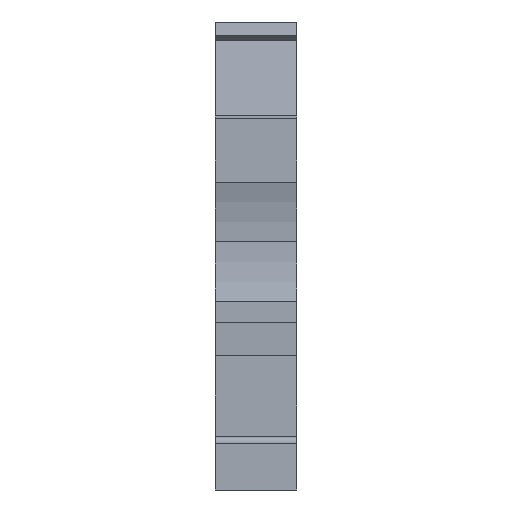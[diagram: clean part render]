
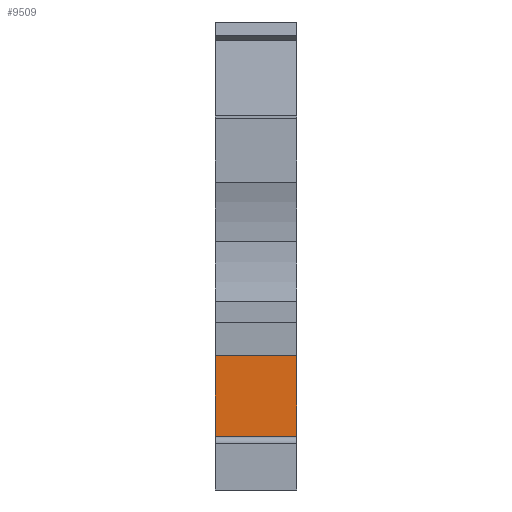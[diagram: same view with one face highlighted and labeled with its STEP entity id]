
A CAD part, front view. The second image highlights one B-rep face of the part: STEP entity #9509.
In plain terms, the highlighted planar face has unit normal (0, -1, 0).
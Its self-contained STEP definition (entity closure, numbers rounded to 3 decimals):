
#387=CARTESIAN_POINT('',(0.,3.,4.));
#388=VERTEX_POINT('',#387);
#395=CARTESIAN_POINT('',(0.,3.,10.1));
#396=VERTEX_POINT('',#395);
#397=CARTESIAN_POINT('',(0.,3.,10.1));
#398=DIRECTION('',(0.,0.,-1.));
#399=VECTOR('',#398,6.1);
#400=LINE('',#397,#399);
#401=EDGE_CURVE('',#396,#388,#400,.T.);
#8366=CARTESIAN_POINT('',(6.15,3.,10.1));
#8367=VERTEX_POINT('',#8366);
#8374=CARTESIAN_POINT('',(6.15,3.,1.5));
#8375=VERTEX_POINT('',#8374);
#8376=CARTESIAN_POINT('',(6.15,3.,10.1));
#8377=DIRECTION('',(-0.,-0.,-1.));
#8378=VECTOR('',#8377,8.6);
#8379=LINE('',#8376,#8378);
#8380=EDGE_CURVE('',#8367,#8375,#8379,.T.);
#9465=CARTESIAN_POINT('',(0.,3.,10.1));
#9466=DIRECTION('',(1.,0.,0.));
#9467=VECTOR('',#9466,6.15);
#9468=LINE('',#9465,#9467);
#9469=EDGE_CURVE('',#396,#8367,#9468,.T.);
#9477=CARTESIAN_POINT('',(0.,3.,10.1));
#9478=DIRECTION('',(0.,1.,0.));
#9479=DIRECTION('',(0.,0.,1.));
#9480=AXIS2_PLACEMENT_3D('',#9477,#9478,#9479);
#9481=PLANE('',#9480);
#9482=ORIENTED_EDGE('',*,*,#8380,.F.);
#9483=ORIENTED_EDGE('',*,*,#9469,.F.);
#9484=ORIENTED_EDGE('',*,*,#401,.T.);
#9485=CARTESIAN_POINT('',(1.1,3.,4.));
#9486=VERTEX_POINT('',#9485);
#9487=CARTESIAN_POINT('',(1.1,3.,4.));
#9488=DIRECTION('',(-1.,-0.,-0.));
#9489=VECTOR('',#9488,1.1);
#9490=LINE('',#9487,#9489);
#9491=EDGE_CURVE('',#9486,#388,#9490,.T.);
#9492=ORIENTED_EDGE('',*,*,#9491,.F.);
#9493=CARTESIAN_POINT('',(1.1,3.,1.5));
#9494=VERTEX_POINT('',#9493);
#9495=CARTESIAN_POINT('',(1.1,3.,1.5));
#9496=DIRECTION('',(0.,-0.,1.));
#9497=VECTOR('',#9496,2.5);
#9498=LINE('',#9495,#9497);
#9499=EDGE_CURVE('',#9494,#9486,#9498,.T.);
#9500=ORIENTED_EDGE('',*,*,#9499,.F.);
#9501=CARTESIAN_POINT('',(1.1,3.,1.5));
#9502=DIRECTION('',(1.,0.,0.));
#9503=VECTOR('',#9502,5.05);
#9504=LINE('',#9501,#9503);
#9505=EDGE_CURVE('',#9494,#8375,#9504,.T.);
#9506=ORIENTED_EDGE('',*,*,#9505,.T.);
#9507=EDGE_LOOP('',(#9482,#9483,#9484,#9492,#9500,#9506));
#9508=FACE_BOUND('',#9507,.T.);
#9509=ADVANCED_FACE('',(#9508),#9481,.F.);
